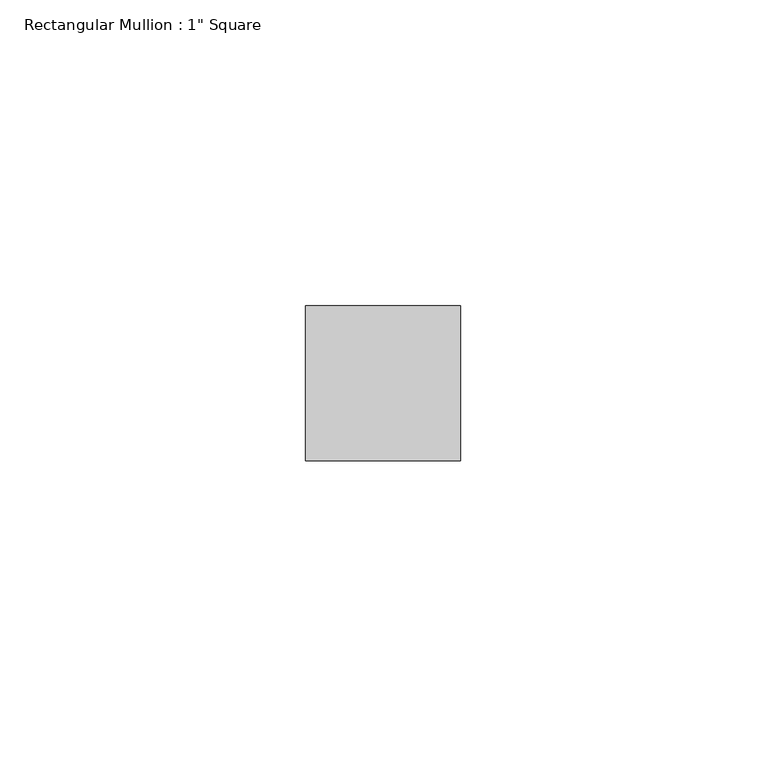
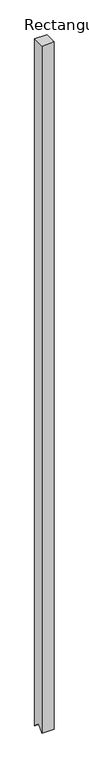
"""IFC4 building model written with IfcOpenShell, lengths in millimetres: member geometry."""

from ifc_helpers import new_model, si_unit, frame, origin, place, context, project, spatial, polyline, outline, extrude, source, transform, mapped, element, save


def member_25f397f4(model_context):
    return source(origin(), model_context, "Body", "SweptSolid", [
        extrude(outline(polyline([(-12.7, 0.0), (12.7, 0.0), (12.7, -1493.2727202), (-0.160889, -1480.6402084), (-12.7, -1493.4060081), (-12.7, 0.0)])), frame((-25.4, 0.0, 0.0), z_axis=(1.0, 0.0, 0.0), x_axis=(0.0, 1.0, 0.0)), (0.0, 0.0, 1.0), 25.4),
    ])


if __name__ == "__main__":
    model = new_model("IFC4")
    model_context = context("Model", 3, world=origin())
    ifc_project = project(units=[si_unit("LENGTHUNIT", "METRE", prefix="MILLI")], contexts=[model_context])
    site = spatial("IfcSite", under=ifc_project)
    building = spatial("IfcBuilding", under=site)
    placement = place(None, origin())
    member_shape = member_25f397f4(model_context)
    element("IfcMember", 1, ObjectType="Rectangular Mullion : 1\" Square", at=placement, inside=building, context=model_context, shape_type="MappedRepresentation", body=[
        mapped(member_shape, transform((0.0, 0.0, 0.0), x_axis=(1.0, 0.0, 0.0), y_axis=(0.0, 1.0, 0.0), z_axis=(0.0, 0.0, 1.0))),
    ])
    save(model, "model.ifc")
